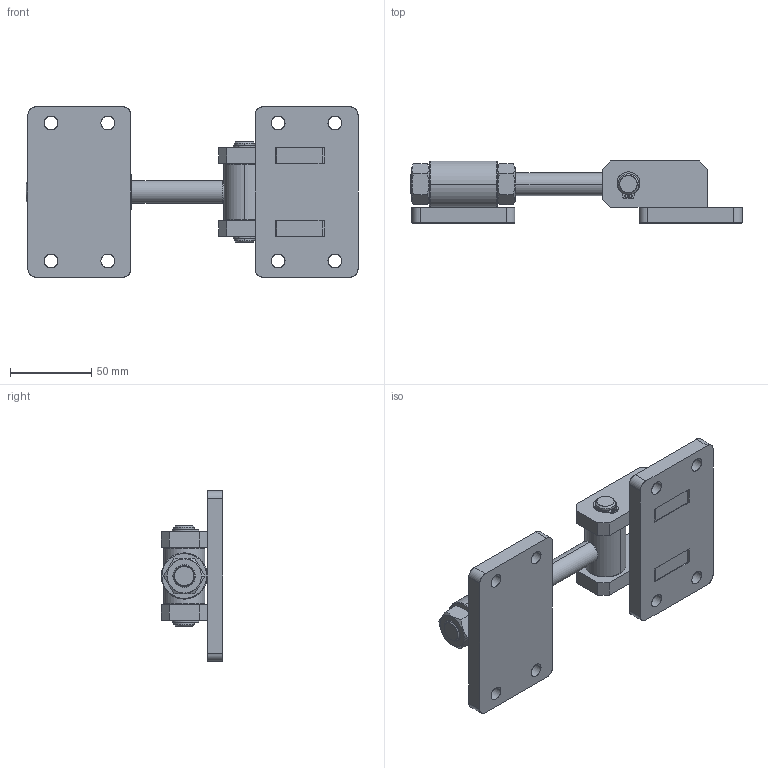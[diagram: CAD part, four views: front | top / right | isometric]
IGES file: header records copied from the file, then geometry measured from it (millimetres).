
Start section: SolidWorks IGES file using analytic representation for surfaces
Global section: file name: C:\Projetos\Grampos\Dobradiças\KFD-19\KFD-19.igs; native system: SolidWorks 2011; preprocessor: SolidWorks 2011; author: Usuario; date: 110512.122106; units: millimetre
Bounding box: 204.7 x 38.1 x 105 mm (x, y, z)
Surface area: 70524.9 mm2 (no closed solid volume)
Topology: 0 solids, 0 shells, 202 faces, 3316 edges, 3316 vertices
Faces by surface type: revolution 116, bspline 86
